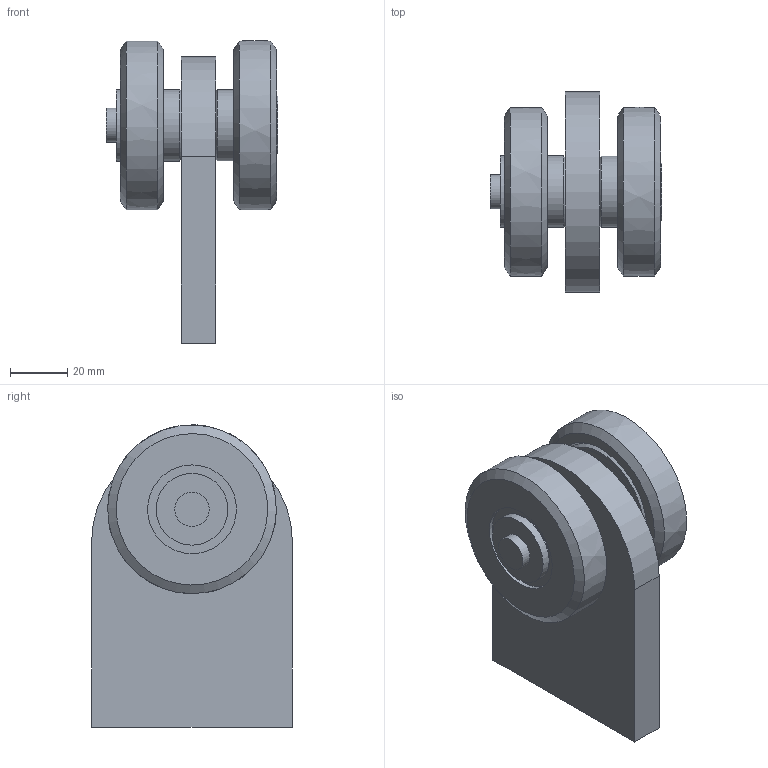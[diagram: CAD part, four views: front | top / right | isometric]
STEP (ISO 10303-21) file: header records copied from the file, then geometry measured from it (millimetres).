
FILE_DESCRIPTION(/* description */ ('Bolzen'),/* implementation_level */ '2;1');
FILE_NAME(/* name */ 'Q:\sge-ma\Produktmanagement-STB\STB\Workspace\stp\010336829.stp',/* time_stamp */ '2016-07-18T12:50:18+02:00',/* author */ ('avschreier'),/* organization */ (''),/* preprocessor_version */ 'ST-DEVELOPER v16.1',/* originating_system */ 'Autodesk Inventor 2016',/* authorisation */ '');
FILE_SCHEMA (('AUTOMOTIVE_DESIGN { 1 0 10303 214 3 1 1 }'));
Length unit declared in the file: millimetre
Products named in the file (8): 000302018; 000302083; 337000287; DIN_625-6203_ZZ_en; 000303241; 000226100; DIN_1440-12_en; 010336829
Assembly tree (9 placements, depth 3):
  010336829
    000302018
    000302083
    000303241  x2
      337000287
      DIN_625-6203_ZZ_en
    000226100  x2
    DIN_1440-12_en
Bounding box: 60 x 70 x 105.45 mm (x, y, z)
Volume: 152725.9 mm3; surface area: 57431.1 mm2
Topology: 9 solids, 11 shells, 143 faces, 386 edges, 251 vertices
Faces by surface type: plane 39, torus 36, cylinder 35, cone 17, sphere 14, bspline 2
Full cylindrical faces by diameter (mm): 12 x2, 16.9 x1, 17 x2, 17.2 x2, 17.3 x1, 22 x1, 24.36 x8, 25 x3, 31 x2, 32.64 x8, 40 x4
Entity records: 3025 total; most frequent: CARTESIAN_POINT 1137, DIRECTION 372, ORIENTED_EDGE 302, AXIS2_PLACEMENT_3D 181, EDGE_CURVE 151, EDGE_LOOP 141, VERTEX_POINT 118, CIRCLE 84
